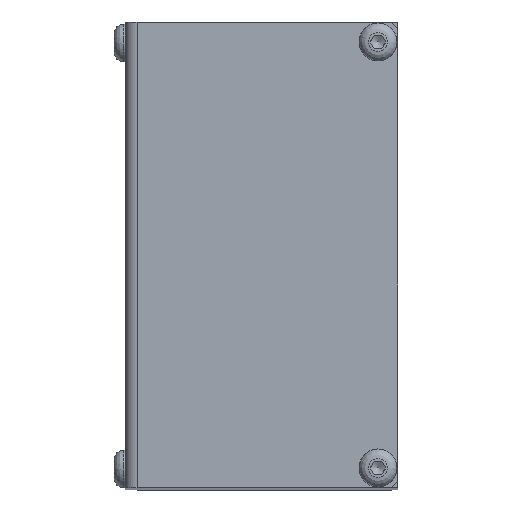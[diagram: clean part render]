
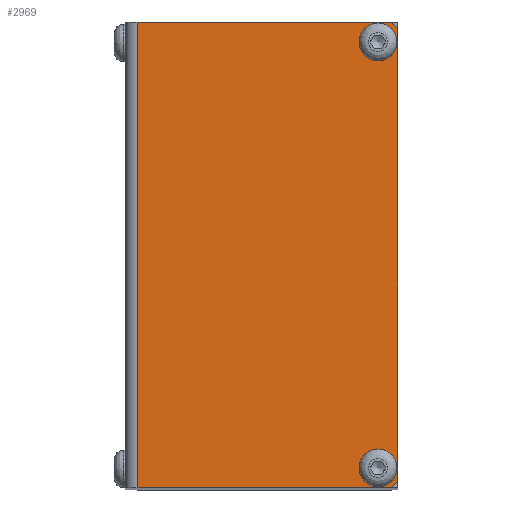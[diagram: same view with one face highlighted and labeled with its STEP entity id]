
A CAD part, top view. The second image highlights one B-rep face of the part: STEP entity #2969.
In plain terms, the highlighted planar face has unit normal (0, 0, 1).
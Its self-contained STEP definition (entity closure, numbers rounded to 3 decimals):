
#123=LINE('',#4809,#309);
#126=LINE('',#4815,#312);
#138=LINE('',#4839,#324);
#144=LINE('',#4854,#330);
#145=LINE('',#4855,#331);
#146=LINE('',#4856,#332);
#309=VECTOR('',#3873,1.414);
#312=VECTOR('',#3878,1.414);
#324=VECTOR('',#3898,70.);
#330=VECTOR('',#3918,68.);
#331=VECTOR('',#3919,38.2);
#332=VECTOR('',#3920,38.2);
#543=PLANE('',#3260);
#621=FACE_BOUND('',#1023,.T.);
#622=FACE_BOUND('',#1024,.T.);
#791=FACE_OUTER_BOUND('',#1022,.T.);
#1022=EDGE_LOOP('',(#2292,#2293,#2294,#2295,#2296,#2297));
#1023=EDGE_LOOP('',(#2298));
#1024=EDGE_LOOP('',(#2299));
#1166=CIRCLE('',#3110,2.85);
#1225=CIRCLE('',#3261,2.85);
#1302=VERTEX_POINT('',#4317);
#1435=VERTEX_POINT('',#4807);
#1436=VERTEX_POINT('',#4808);
#1437=VERTEX_POINT('',#4813);
#1438=VERTEX_POINT('',#4814);
#1445=VERTEX_POINT('',#4837);
#1446=VERTEX_POINT('',#4838);
#1449=VERTEX_POINT('',#4857);
#1565=EDGE_CURVE('',#1302,#1302,#1166,.T.);
#1744=EDGE_CURVE('',#1435,#1436,#123,.T.);
#1747=EDGE_CURVE('',#1437,#1438,#126,.T.);
#1759=EDGE_CURVE('',#1445,#1446,#138,.T.);
#1769=EDGE_CURVE('',#1438,#1435,#144,.T.);
#1770=EDGE_CURVE('',#1445,#1437,#145,.T.);
#1771=EDGE_CURVE('',#1436,#1446,#146,.T.);
#1772=EDGE_CURVE('',#1449,#1449,#1225,.T.);
#2292=ORIENTED_EDGE('',*,*,#1744,.F.);
#2293=ORIENTED_EDGE('',*,*,#1769,.F.);
#2294=ORIENTED_EDGE('',*,*,#1747,.F.);
#2295=ORIENTED_EDGE('',*,*,#1770,.F.);
#2296=ORIENTED_EDGE('',*,*,#1759,.T.);
#2297=ORIENTED_EDGE('',*,*,#1771,.F.);
#2298=ORIENTED_EDGE('',*,*,#1772,.T.);
#2299=ORIENTED_EDGE('',*,*,#1565,.T.);
#2969=ADVANCED_FACE('',(#791,#621,#622),#543,.T.);
#3110=AXIS2_PLACEMENT_3D('',#4318,#3491,#3492);
#3260=AXIS2_PLACEMENT_3D('',#4853,#3916,#3917);
#3261=AXIS2_PLACEMENT_3D('',#4858,#3921,#3922);
#3491=DIRECTION('center_axis',(0.,0.,
-1.));
#3492=DIRECTION('ref_axis',(0.,1.,0.));
#3873=DIRECTION('',(-0.707,-0.707,0.));
#3878=DIRECTION('',(0.707,-0.707,0.));
#3898=DIRECTION('',(0.,-1.,0.));
#3916=DIRECTION('center_axis',(0.,0.,
1.));
#3917=DIRECTION('ref_axis',(1.,0.,0.));
#3918=DIRECTION('',(0.,-1.,0.));
#3919=DIRECTION('',(1.,0.,0.));
#3920=DIRECTION('',(-1.,0.,0.));
#3921=DIRECTION('center_axis',(0.,0.,
-1.));
#3922=DIRECTION('ref_axis',(0.,1.,0.));
#4317=CARTESIAN_POINT('',(38.,5.85,179.));
#4318=CARTESIAN_POINT('Origin',(38.,3.,179.));
#4807=CARTESIAN_POINT('',(41.,1.,179.));
#4808=CARTESIAN_POINT('',(40.,0.,179.));
#4809=CARTESIAN_POINT('',(44.159,4.159,179.));
#4813=CARTESIAN_POINT('',(40.,70.,179.));
#4814=CARTESIAN_POINT('',(41.,69.,179.));
#4815=CARTESIAN_POINT('',(44.159,65.841,179.));
#4837=CARTESIAN_POINT('',(1.8,70.,179.));
#4838=CARTESIAN_POINT('',(1.8,0.,179.));
#4839=CARTESIAN_POINT('',(1.8,35.,179.));
#4853=CARTESIAN_POINT('Origin',(20.635,35.,179.));
#4854=CARTESIAN_POINT('',(41.,70.,179.));
#4855=CARTESIAN_POINT('',(1.8,70.,179.));
#4856=CARTESIAN_POINT('',(-1.259,0.,179.));
#4857=CARTESIAN_POINT('',(38.,69.85,179.));
#4858=CARTESIAN_POINT('Origin',(38.,67.,179.));
